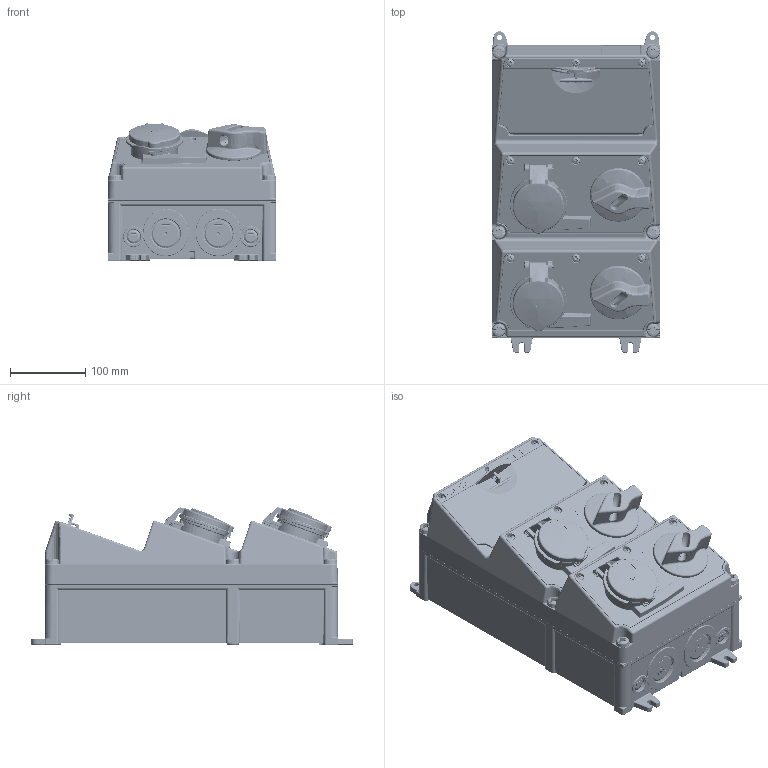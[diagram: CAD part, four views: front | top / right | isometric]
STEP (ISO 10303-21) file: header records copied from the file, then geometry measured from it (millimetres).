
FILE_DESCRIPTION((''),'2;1');
FILE_NAME('930031-1_ASM_1_ASM','2018-05-07T',('weltickej'),('MENNEKES'),'PRO/ENGINEER BY PARAMETRIC TECHNOLOGY CORPORATION, 2015440','PRO/ENGINEER BY PARAMETRIC TECHNOLOGY CORPORATION, 2015440','');
FILE_SCHEMA(('AUTOMOTIVE_DESIGN { 1 0 10303 214 1 1 1 1 }'));
Products named in the file (6): 3-4_SW_O_GRAU_1; MP_FEN10_44_OBEN_GRAU_1; LS_3POL_3TE_1; BAUTEIL_DUMMY__1; MP_DUO_16_5_44_ROT_GRAU_1; 930031-1_ASM_1_ASM
Assembly tree (7 placements, depth 2):
  930031-1_ASM_1_ASM
    3-4_SW_O_GRAU_1
    MP_FEN10_44_OBEN_GRAU_1
    LS_3POL_3TE_1  x2
    BAUTEIL_DUMMY__1
    MP_DUO_16_5_44_ROT_GRAU_1  x2
Bounding box: 225 x 428.2 x 182.91 mm (x, y, z)
Volume: 9279989.1 mm3; surface area: 985394.6 mm2
Topology: 6 solids, 6 shells, 12008 faces, 33148 edges, 21230 vertices
Faces by surface type: plane 6788, cylinder 2577, bspline 1068, torus 885, cone 332, sphere 240, extrusion 118
Entity records: 402051 total; most frequent: CARTESIAN_POINT 122701, ORIENTED_EDGE 49232, DIRECTION 42408, EDGE_CURVE 24616, VERTEX_POINT 15772, VECTOR 14902, LINE 14791, AXIS2_PLACEMENT_3D 13753
